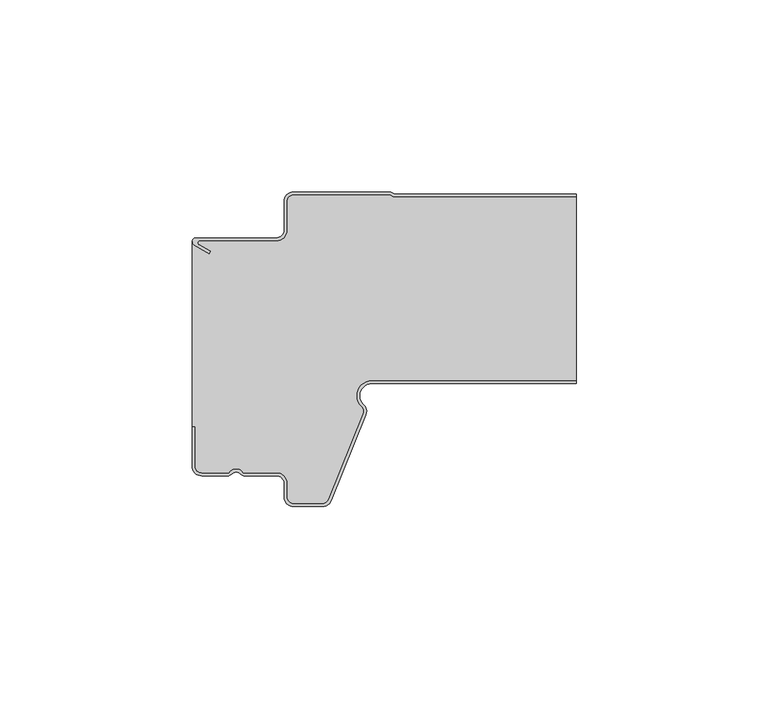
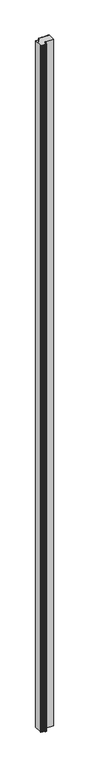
"""IFC4 building model written with IfcOpenShell, lengths in millimetres: plate geometry, ACH_Panel-Cubierta-3-Grecas-P3G : ACH_P3G_3-Rib-Roof-Panel_50M."""

import ifcopenshell
import ifcopenshell.guid

model = None  # the IFC model being written
_history = None  # IfcOwnerHistory: only IFC2X3 demands one
_inside = {}  # id of a spatial element -> (the spatial element, [elements in it])
_under = {}  # id of a project, library or spatial element -> (it, [spatial elements below it])
_declared = {}  # id of a project -> (the project, [libraries it declares])
_typed = {}  # id of a type object -> (the type object, [elements of that type])
_made_of = {}  # id of a material, layer set ... -> (it, [elements and type objects made of it])


def new_model(schema):
    """Start an empty IFC model of exactly this schema.

    Asked for "IFC4X3", IfcOpenShell would pick the latest addendum, in which some entities
    have other attributes; the version numbers below select the first issue.
    IFC2X3 requires an IfcOwnerHistory on every rooted entity: one is made here for all.
    """
    global model, _history
    if schema == "IFC4X3":
        model = ifcopenshell.file(schema_version=(4, 3, 0, 0))
    else:
        model = ifcopenshell.file(schema=schema)
    _inside.clear()
    _under.clear()
    _declared.clear()
    _typed.clear()
    _made_of.clear()
    _history = None
    if model.schema == "IFC2X3":
        org = make("IfcOrganization", Name="unknown")
        user = make(
            "IfcPersonAndOrganization",
            ThePerson=make("IfcPerson", FamilyName="unknown"),
            TheOrganization=org,
        )
        app = make(
            "IfcApplication",
            ApplicationDeveloper=org,
            Version="unknown",
            ApplicationFullName="unknown",
            ApplicationIdentifier="unknown",
        )
        _history = make(
            "IfcOwnerHistory",
            OwningUser=user,
            OwningApplication=app,
            ChangeAction="ADDED",
            CreationDate=0,
        )
    return model


def make(cls, **values):
    """One entity of the class cls with the attributes given. An attribute that is None is left unset."""
    return model.create_entity(
        cls, **{name: value for name, value in values.items() if value is not None}
    )


def rooted(cls, **values):
    """An entity with a GlobalId (a new one), such as an element, a storey or a relation."""
    return make(cls, GlobalId=ifcopenshell.guid.new(), OwnerHistory=_history, **values)


def si_unit(unit_type, name, prefix=None):
    """IfcSIUnit, for example si_unit("LENGTHUNIT", "METRE", prefix="MILLI")."""
    return make("IfcSIUnit", UnitType=unit_type, Prefix=prefix, Name=name)


def assignment(units):
    """IfcUnitAssignment: the units of a project."""
    return None if units is None else make("IfcUnitAssignment", Units=units)


def point(xyz):
    """IfcCartesianPoint."""
    return None if xyz is None else make("IfcCartesianPoint", Coordinates=xyz)


def direction(xyz):
    """IfcDirection."""
    return None if xyz is None else make("IfcDirection", DirectionRatios=xyz)


def frame(location, z_axis=None, x_axis=None):
    """IfcAxis2Placement3D, a coordinate frame: its origin and axes. An axis left out is left unset."""
    return make(
        "IfcAxis2Placement3D",
        Location=point(location),
        Axis=direction(z_axis),
        RefDirection=direction(x_axis),
    )


def frame_2d(location, x_axis=None):
    """IfcAxis2Placement2D, a coordinate frame in the plane: its origin and x axis."""
    return make(
        "IfcAxis2Placement2D", Location=point(location), RefDirection=direction(x_axis)
    )


def origin():
    """The frame at (0, 0, 0) with its axes left unset."""
    return frame((0.0, 0.0, 0.0))


def origin_with_axes():
    """The frame at (0, 0, 0) with the z axis (0, 0, 1) and the x axis (1, 0, 0) written out."""
    return frame((0.0, 0.0, 0.0), z_axis=(0.0, 0.0, 1.0), x_axis=(1.0, 0.0, 0.0))


def place(relative_to, where):
    """IfcLocalPlacement: puts the frame where relative to a parent placement (None: the world)."""
    return make(
        "IfcLocalPlacement", PlacementRelTo=relative_to, RelativePlacement=where
    )


def context(
    kind, dimensions, precision=None, world=None, true_north=None, identifier=None
):
    """IfcGeometricRepresentationContext, for example the 3D "Model" context."""
    return make(
        "IfcGeometricRepresentationContext",
        ContextIdentifier=identifier,
        ContextType=kind,
        CoordinateSpaceDimension=dimensions,
        Precision=precision,
        WorldCoordinateSystem=world,
        TrueNorth=true_north,
    )


def project(units=None, contexts=None):
    """IfcProject with its units and contexts."""
    return rooted(
        "IfcProject",
        Name="project",
        RepresentationContexts=contexts,
        UnitsInContext=assignment(units),
    )


def spatial(cls, under=None, at=None, **own):
    """A site, building, storey or space (cls), placed at a placement, below another one or the project."""
    s = rooted(cls, ObjectPlacement=at, **own)
    if under is not None:
        _under.setdefault(under.id(), (under, []))[1].append(s)
    return s


def polyline(points):
    """IfcPolyline through the points."""
    return make("IfcPolyline", Points=[point(p) for p in points])


def circle_curve(where, radius):
    """IfcCircle in the frame where."""
    return make("IfcCircle", Position=where, Radius=radius)


def trimmed(basis, trim1, trim2, sense, master):
    """IfcTrimmedCurve: the piece of a basis curve between two trims."""
    return make(
        "IfcTrimmedCurve",
        BasisCurve=basis,
        Trim1=trim1,
        Trim2=trim2,
        SenseAgreement=sense,
        MasterRepresentation=master,
    )


def segment(curve, same_sense, transition):
    """IfcCompositeCurveSegment."""
    return make(
        "IfcCompositeCurveSegment",
        Transition=transition,
        SameSense=same_sense,
        ParentCurve=curve,
    )


def composite_curve(segments, self_intersect=None):
    """IfcCompositeCurve: segments joined end to end."""
    return make("IfcCompositeCurve", Segments=segments, SelfIntersect=self_intersect)


def outline(outer, holes=None, kind="AREA"):
    """IfcArbitraryClosedProfileDef: a profile drawn as a closed curve; with holes, ...WithVoids."""
    if holes is None:
        return make("IfcArbitraryClosedProfileDef", ProfileType=kind, OuterCurve=outer)
    return make(
        "IfcArbitraryProfileDefWithVoids",
        ProfileType=kind,
        OuterCurve=outer,
        InnerCurves=holes,
    )


def extrude(swept, where, along, depth):
    """IfcExtrudedAreaSolid: the profile swept, set in the frame where, extruded along a direction by depth."""
    return make(
        "IfcExtrudedAreaSolid",
        SweptArea=swept,
        Position=where,
        ExtrudedDirection=direction(along),
        Depth=depth,
    )


def shape(context_of_items, identifier, shape_type, items):
    """IfcShapeRepresentation: the items that make up one representation, for example the "Body"."""
    return make(
        "IfcShapeRepresentation",
        ContextOfItems=context_of_items,
        RepresentationIdentifier=identifier,
        RepresentationType=shape_type,
        Items=items,
    )


def source(mapping_origin, context_of_items, identifier, shape_type, items):
    """IfcRepresentationMap: a shape defined once, which mapped items show again and again."""
    return make(
        "IfcRepresentationMap",
        MappingOrigin=mapping_origin,
        MappedRepresentation=shape(context_of_items, identifier, shape_type, items),
    )


def transform(
    local_origin,
    x_axis=None,
    y_axis=None,
    z_axis=None,
    scale=None,
    scale2=None,
    scale3=None,
    uniform=True,
):
    """IfcCartesianTransformationOperator3D, or its non-uniform kind. x_axis, y_axis, z_axis: its Axis1, 2, 3."""
    if uniform:
        return make(
            "IfcCartesianTransformationOperator3D",
            Axis1=direction(x_axis),
            Axis2=direction(y_axis),
            LocalOrigin=point(local_origin),
            Scale=scale,
            Axis3=direction(z_axis),
        )
    return make(
        "IfcCartesianTransformationOperator3DnonUniform",
        Axis1=direction(x_axis),
        Axis2=direction(y_axis),
        LocalOrigin=point(local_origin),
        Scale=scale,
        Axis3=direction(z_axis),
        Scale2=scale2,
        Scale3=scale3,
    )


def mapped(mapping_source, mapping_target):
    """IfcMappedItem: shows the shape of a source again, moved by a transform."""
    return make(
        "IfcMappedItem", MappingSource=mapping_source, MappingTarget=mapping_target
    )


def made_of(thing, what):
    """Note that an element or type object is made of a material, layer set ...; save() writes the relation."""
    if what is not None:
        _made_of.setdefault(what.id(), (what, []))[1].append(thing)
    return thing


def element(
    cls,
    number,
    at=None,
    inside=None,
    cuts=None,
    type_object=None,
    material=None,
    context=None,
    identifier="Body",
    shape_type=None,
    held_by="IfcProductDefinitionShape",
    body=None,
    shapes=None,
    **own,
):
    """One element of the class cls, such as IfcWall. Its Tag is "e" and its number.

    at: its placement. inside: the storey or other place that contains it. cuts: it is an
    opening in that element (IfcRelVoidsElement). A single representation is given by context,
    identifier, shape_type and body (its items); several are given by shapes. held_by: the class
    of the entity that holds the representations. save() writes the other relations.
    """
    e = rooted(cls, Tag="e%d" % number, ObjectPlacement=at, **own)
    if body is not None:
        shapes = [shape(context, identifier, shape_type, body)]
    if shapes is not None:
        e.Representation = make(held_by, Representations=shapes)
    if inside is not None:
        _inside.setdefault(inside.id(), (inside, []))[1].append(e)
    if cuts is not None:
        rooted(
            "IfcRelVoidsElement", RelatingBuildingElement=cuts, RelatedOpeningElement=e
        )
    if type_object is not None:
        _typed.setdefault(type_object.id(), (type_object, []))[1].append(e)
    return made_of(e, material)


def aggregate(whole, parts):
    """IfcRelAggregates: a whole, such as a stair, and the parts it consists of."""
    return rooted("IfcRelAggregates", RelatingObject=whole, RelatedObjects=parts)


def save(model, path):
    """Write the relations noted so far, then the file.

    IfcRelAggregates (storeys below a building ...), IfcRelContainedInSpatialStructure (elements
    in a storey), IfcRelDefinesByType, IfcRelAssociatesMaterial and IfcRelDeclares: one each for
    every whole, place, type object, material and project.
    """
    for whole, parts in _under.values():
        aggregate(whole, parts)
    for where, things in _inside.values():
        rooted(
            "IfcRelContainedInSpatialStructure",
            RelatedElements=things,
            RelatingStructure=where,
        )
    for kind, things in _typed.values():
        rooted("IfcRelDefinesByType", RelatedObjects=things, RelatingType=kind)
    for what, things in _made_of.values():
        rooted("IfcRelAssociatesMaterial", RelatedObjects=things, RelatingMaterial=what)
    for by, libraries in _declared.values():
        rooted("IfcRelDeclares", RelatingContext=by, RelatedDefinitions=libraries)
    model.write(path)


def plate_d3526fd2(model_context):
    return source(origin(), model_context, "Body", "SweptSolid", [
        extrude(outline(composite_curve([segment(polyline([(-49.496875, -13.8660254), (-45.496875, -16.1754265), (-45.096875, -15.4826062), (-48.1272598, -13.7330127)]), True, "CONTINUOUS"), segment(trimmed(circle_curve(frame_2d((-47.8772598, -13.3)), 0.5), [point((-48.1272598, -13.7330127))], [point((-47.8772598, -12.8))], False, "CARTESIAN"), True, "CONTINUOUS"), segment(polyline([(-47.8772598, -12.8), (-27.996875, -12.8)]), True, "CONTINUOUS"), segment(trimmed(circle_curve(frame_2d((-27.996875, -10.0)), 2.8), [point((-27.996875, -12.8))], [point((-25.196875, -10.0))], True, "CARTESIAN"), True, "CONTINUOUS"), segment(polyline([(-25.196875, -10.0), (-25.196875, -2.5)]), True, "CONTINUOUS"), segment(trimmed(circle_curve(frame_2d((-23.496875, -2.5)), 1.7), [point((-25.196875, -2.5))], [point((-23.496875, -0.8))], False, "CARTESIAN"), True, "CONTINUOUS"), segment(polyline([(-23.496875, -0.8), (1.5686408, -0.8), (2.5661408, -1.4), (50.0, -1.4), (50.0, -49.2), (-3.2387629, -49.2)]), True, "CONTINUOUS"), segment(trimmed(circle_curve(frame_2d((-3.2387629, -53.1)), 3.9), [point((-3.2387629, -49.2))], [point((-5.8938106, -55.9566976))], True, "CARTESIAN"), True, "CONTINUOUS"), segment(trimmed(circle_curve(frame_2d((-7.0511391, -57.2019248)), 1.7), [point((-5.8938106, -55.9566976))], [point((-5.4749266, -57.838756))], False, "CARTESIAN"), True, "CONTINUOUS"), segment(polyline([(-5.4749266, -57.838756), (-14.4839337, -80.1368312)]), True, "CONTINUOUS"), segment(trimmed(circle_curve(frame_2d((-16.0601463, -79.5)), 1.7), [point((-14.4839337, -80.1368312))], [point((-16.0601463, -81.2))], False, "CARTESIAN"), True, "CONTINUOUS"), segment(polyline([(-16.0601463, -81.2), (-23.496875, -81.2)]), True, "CONTINUOUS"), segment(trimmed(circle_curve(frame_2d((-23.496875, -79.5)), 1.7), [point((-23.496875, -81.2))], [point((-25.196875, -79.5))], False, "CARTESIAN"), True, "CONTINUOUS"), segment(polyline([(-25.196875, -79.5), (-25.196875, -76.0)]), True, "CONTINUOUS"), segment(trimmed(circle_curve(frame_2d((-27.996875, -76.0)), 2.8), [point((-25.196875, -76.0))], [point((-27.996875, -73.2))], True, "CARTESIAN"), True, "CONTINUOUS"), segment(polyline([(-27.996875, -73.2), (-36.5995084, -73.2)]), True, "CONTINUOUS"), segment(trimmed(circle_curve(frame_2d((-38.496875, -74.5)), 2.3), [point((-36.5995084, -73.2))], [point((-40.3942416, -73.2))], True, "CARTESIAN"), True, "CONTINUOUS"), segment(polyline([(-40.3942416, -73.2), (-47.496875, -73.2)]), True, "CONTINUOUS"), segment(trimmed(circle_curve(frame_2d((-47.496875, -71.5)), 1.7), [point((-47.496875, -73.2))], [point((-49.196875, -71.5))], False, "CARTESIAN"), True, "CONTINUOUS"), segment(polyline([(-49.196875, -71.5), (-49.196875, -61.18), (-49.996875, -61.18), (-49.996875, -13.0)]), True, "CONTINUOUS"), segment(trimmed(circle_curve(frame_2d((-48.996875, -13.0)), 1.0), [point((-49.996875, -13.0))], [point((-49.496875, -13.8660254))], True, "CARTESIAN"), True, "CONTINUOUS")], self_intersect=False)), origin_with_axes(), (0.0, 0.0, 1.0), 5000.0),
        extrude(outline(composite_curve([segment(trimmed(circle_curve(frame_2d((-28.0, -10.0)), 2.0), [point((-28.0, -12.0))], [point((-26.0, -10.0))], True, "CARTESIAN"), True, "CONTINUOUS"), segment(polyline([(-26.0, -10.0), (-26.0, -2.5)]), True, "CONTINUOUS"), segment(trimmed(circle_curve(frame_2d((-23.5, -2.5)), 2.5), [point((-26.0, -2.5))], [point((-23.5, 0.0))], False, "CARTESIAN"), True, "CONTINUOUS"), segment(polyline([(-23.5, 0.0), (1.7875789, 0.0), (2.7850789, -0.6), (50.0, -0.6), (50.0, -1.4), (2.5630158, -1.4), (1.5655158, -0.8), (-23.5, -0.8)]), True, "CONTINUOUS"), segment(trimmed(circle_curve(frame_2d((-23.5, -2.5)), 1.7), [point((-23.5, -0.8))], [point((-25.2, -2.5))], True, "CARTESIAN"), True, "CONTINUOUS"), segment(polyline([(-25.2, -2.5), (-25.2, -10.0)]), True, "CONTINUOUS"), segment(trimmed(circle_curve(frame_2d((-28.0, -10.0)), 2.8), [point((-25.2, -10.0))], [point((-28.0, -12.8))], False, "CARTESIAN"), True, "CONTINUOUS"), segment(polyline([(-28.0, -12.8), (-47.8803848, -12.8)]), True, "CONTINUOUS"), segment(trimmed(circle_curve(frame_2d((-47.8803848, -13.3)), 0.5), [point((-47.8803848, -12.8))], [point((-48.1303848, -13.7330127))], True, "CARTESIAN"), True, "CONTINUOUS"), segment(polyline([(-48.1303848, -13.7330127), (-45.1, -15.4826062), (-45.5, -16.1754265), (-49.5, -13.8660254)]), True, "CONTINUOUS"), segment(trimmed(circle_curve(frame_2d((-49.0, -13.0)), 1.0), [point((-49.5, -13.8660254))], [point((-49.0, -12.0))], False, "CARTESIAN"), True, "CONTINUOUS"), segment(polyline([(-49.0, -12.0), (-28.0, -12.0)]), True, "CONTINUOUS")], self_intersect=False)), origin_with_axes(), (0.0, 0.0, 1.0), 5000.0),
        extrude(outline(composite_curve([segment(polyline([(-50.0, -71.5), (-50.0, -61.18), (-49.2, -61.18), (-49.2, -71.5)]), True, "CONTINUOUS"), segment(trimmed(circle_curve(frame_2d((-47.5, -71.5)), 1.7), [point((-49.2, -71.5))], [point((-47.5, -73.2))], True, "CARTESIAN"), True, "CONTINUOUS"), segment(polyline([(-47.5, -73.2), (-40.3973666, -73.2)]), True, "CONTINUOUS"), segment(trimmed(circle_curve(frame_2d((-38.5, -74.5)), 2.3), [point((-40.3973666, -73.2))], [point((-36.6026334, -73.2))], False, "CARTESIAN"), True, "CONTINUOUS"), segment(polyline([(-36.6026334, -73.2), (-28.0, -73.2)]), True, "CONTINUOUS"), segment(trimmed(circle_curve(frame_2d((-28.0, -76.0)), 2.8), [point((-28.0, -73.2))], [point((-25.2, -76.0))], False, "CARTESIAN"), True, "CONTINUOUS"), segment(polyline([(-25.2, -76.0), (-25.2, -79.5)]), True, "CONTINUOUS"), segment(trimmed(circle_curve(frame_2d((-23.5, -79.5)), 1.7), [point((-25.2, -79.5))], [point((-23.5, -81.2))], True, "CARTESIAN"), True, "CONTINUOUS"), segment(polyline([(-23.5, -81.2), (-16.0632713, -81.2)]), True, "CONTINUOUS"), segment(trimmed(circle_curve(frame_2d((-16.0632713, -79.5)), 1.7), [point((-16.0632713, -81.2))], [point((-14.4870587, -80.1368312))], True, "CARTESIAN"), True, "CONTINUOUS"), segment(polyline([(-14.4870587, -80.1368312), (-5.4780516, -57.838756)]), True, "CONTINUOUS"), segment(trimmed(circle_curve(frame_2d((-7.0542641, -57.2019248)), 1.7), [point((-5.4780516, -57.838756))], [point((-5.8969356, -55.9566976))], True, "CARTESIAN"), True, "CONTINUOUS"), segment(trimmed(circle_curve(frame_2d((-3.2418879, -53.1)), 3.9), [point((-5.8969356, -55.9566976))], [point((-3.2418879, -49.2))], False, "CARTESIAN"), True, "CONTINUOUS"), segment(polyline([(-3.2418879, -49.2), (50.0, -49.2), (50.0, -50.0), (-3.2418879, -50.0)]), True, "CONTINUOUS"), segment(trimmed(circle_curve(frame_2d((-3.2418879, -53.1)), 3.1), [point((-3.2418879, -50.0))], [point((-5.3523104, -55.3707084))], True, "CARTESIAN"), True, "CONTINUOUS"), segment(trimmed(circle_curve(frame_2d((-7.0542641, -57.2019248)), 2.5), [point((-5.3523104, -55.3707084))], [point((-4.7363045, -58.1384413))], False, "CARTESIAN"), True, "CONTINUOUS"), segment(polyline([(-4.7363045, -58.1384413), (-13.7453117, -80.4365165)]), True, "CONTINUOUS"), segment(trimmed(circle_curve(frame_2d((-16.0632713, -79.5)), 2.5), [point((-13.7453117, -80.4365165))], [point((-16.0632713, -82.0))], False, "CARTESIAN"), True, "CONTINUOUS"), segment(polyline([(-16.0632713, -82.0), (-23.5, -82.0)]), True, "CONTINUOUS"), segment(trimmed(circle_curve(frame_2d((-23.5, -79.5)), 2.5), [point((-23.5, -82.0))], [point((-26.0, -79.5))], False, "CARTESIAN"), True, "CONTINUOUS"), segment(polyline([(-26.0, -79.5), (-26.0, -76.0)]), True, "CONTINUOUS"), segment(trimmed(circle_curve(frame_2d((-28.0, -76.0)), 2.0), [point((-26.0, -76.0))], [point((-28.0, -74.0))], True, "CARTESIAN"), True, "CONTINUOUS"), segment(polyline([(-28.0, -74.0), (-36.263932, -74.0)]), True, "CONTINUOUS"), segment(trimmed(circle_curve(frame_2d((-36.263932, -72.5)), 1.5), [point((-36.263932, -74.0))], [point((-37.381966, -73.5))], False, "CARTESIAN"), True, "CONTINUOUS"), segment(trimmed(circle_curve(frame_2d((-38.5, -74.5)), 1.5), [point((-37.381966, -73.5))], [point((-39.618034, -73.5))], True, "CARTESIAN"), True, "CONTINUOUS"), segment(trimmed(circle_curve(frame_2d((-40.736068, -72.5)), 1.5), [point((-39.618034, -73.5))], [point((-40.736068, -74.0))], False, "CARTESIAN"), True, "CONTINUOUS"), segment(polyline([(-40.736068, -74.0), (-47.5, -74.0)]), True, "CONTINUOUS"), segment(trimmed(circle_curve(frame_2d((-47.5, -71.5)), 2.5), [point((-47.5, -74.0))], [point((-50.0, -71.5))], False, "CARTESIAN"), True, "CONTINUOUS")], self_intersect=False)), origin_with_axes(), (0.0, 0.0, 1.0), 5000.0),
    ])


if __name__ == "__main__":
    model = new_model("IFC4")
    model_context = context("Model", 3, world=origin())
    ifc_project = project(units=[si_unit("LENGTHUNIT", "METRE", prefix="MILLI")], contexts=[model_context])
    site = spatial("IfcSite", under=ifc_project)
    building = spatial("IfcBuilding", under=site)
    placement = place(None, origin())
    plate_shape = plate_d3526fd2(model_context)
    element("IfcPlate", 1, ObjectType="ACH_Panel-Cubierta-3-Grecas-P3G : ACH_P3G_3-Rib-Roof-Panel_50M", at=placement, inside=building, context=model_context, shape_type="MappedRepresentation", body=[
        mapped(plate_shape, transform((0.0, 0.0, 0.0), x_axis=(1.0, 0.0, 0.0), y_axis=(0.0, 1.0, 0.0), z_axis=(0.0, 0.0, 1.0))),
    ])
    save(model, "model.ifc")
